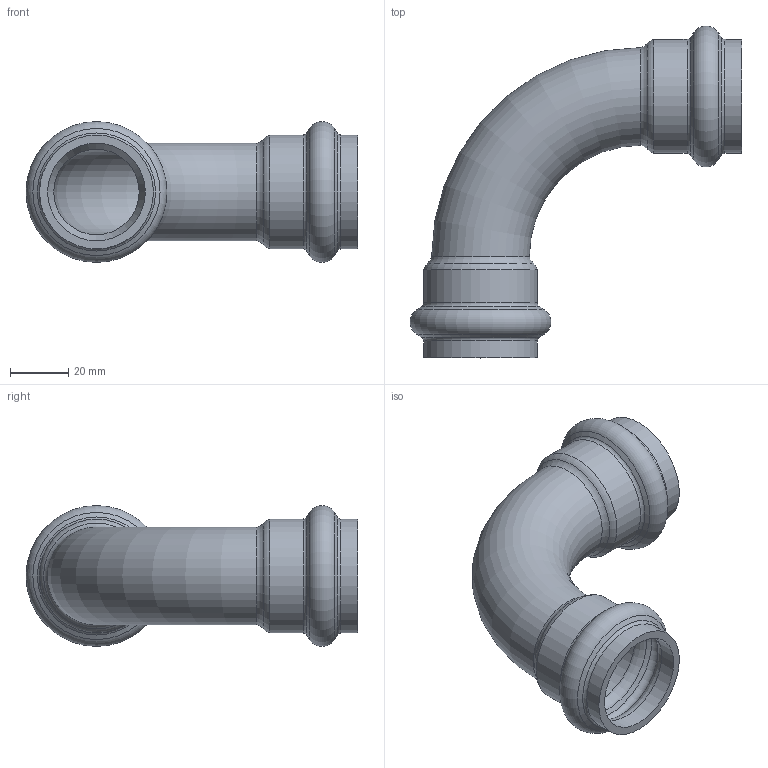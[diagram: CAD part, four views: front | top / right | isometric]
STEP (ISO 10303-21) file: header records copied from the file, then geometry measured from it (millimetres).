
FILE_DESCRIPTION(/* description */ ('VIC 90 DEG ST ELBOW STYLE P568 (P X P)','CAx-IF Rec.Pracs.---Representation and Presentation of Product Manufacturing Information (PMI)---4.0---2014-10-13'),/* implementation_level */ '2;1');
FILE_NAME(/* name */ 'C:\Users\kkamble\AppData\Roaming\Autodesk\ApplicationPlugins\Back Up\Victaulic_SS-Vic-Press-TP 316_Elbow 90 Deg_Style P568 (VP)\Victaulic_SS-Vic-Press-TP 316_Elbow 90 Deg_Style P568 (VP)_1 (25).stp',/* time_stamp */ '2020-08-14T14:06:35+06:00',/* author */ ('cgray'),/* organization */ ('Victaulic'),/* preprocessor_version */ 'ST-DEVELOPER v17.2',/* originating_system */ 'Autodesk Inventor 2019',/* authorisation */ '');
FILE_SCHEMA (('AP242_MANAGED_MODEL_BASED_3D_ENGINEERING_MIM_LF { 1 0 10303 442 1 1 4 }'));
Length unit declared in the file: inch
Products named in the file (1): P568-01.0
Bounding box: 113.49 x 113.49 x 48.16 mm (x, y, z)
Volume: 42919.7 mm3; surface area: 36187.9 mm2
Topology: 1 solids, 1 shells, 38 faces, 140 edges, 104 vertices
Faces by surface type: torus 18, cone 10, cylinder 8, plane 2
Full cylindrical faces by diameter (mm): 33.401 x4, 38.938 x4
Entity records: 1796 total; most frequent: DIRECTION 366, CARTESIAN_POINT 300, ORIENTED_EDGE 280, AXIS2_PLACEMENT_3D 174, EDGE_CURVE 140, CIRCLE 122, VERTEX_POINT 104, EDGE_LOOP 40
